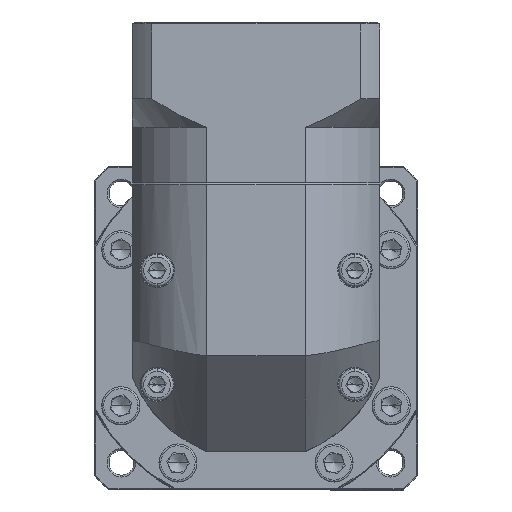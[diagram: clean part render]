
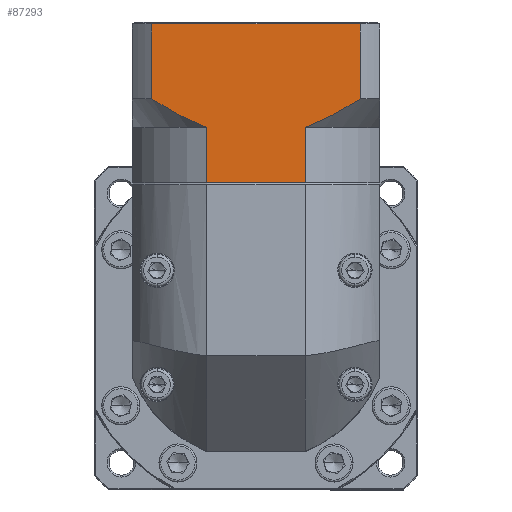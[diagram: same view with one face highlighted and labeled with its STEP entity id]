
A CAD part, top view. The second image highlights one B-rep face of the part: STEP entity #87293.
In plain terms, the highlighted planar face has unit normal (0, 0, 1).
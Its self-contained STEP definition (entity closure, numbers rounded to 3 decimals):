
#2312 = CARTESIAN_POINT ( 'NONE',  ( -29.307, 85.688, 22.63 ) ) ;
#4010 = CARTESIAN_POINT ( 'NONE',  ( -14.911, 127.388, 22.63 ) ) ;
#4377 = VERTEX_POINT ( 'NONE', #4010 ) ;
#5643 = ORIENTED_EDGE ( 'NONE', *, *, #58318, .T. ) ;
#5778 = VERTEX_POINT ( 'NONE', #11483 ) ;
#7276 = DIRECTION ( 'NONE',  ( 0., -1., 0. ) ) ;
#7319 = CARTESIAN_POINT ( 'NONE',  ( -55.287, 100.188, 22.63 ) ) ;
#8359 = CARTESIAN_POINT ( 'NONE',  ( -67.394, 106.239, 22.63 ) ) ;
#9135 = CARTESIAN_POINT ( 'NONE',  ( -26.14, 101.478, 22.63 ) ) ;
#11483 = CARTESIAN_POINT ( 'NONE',  ( -55.287, 85.688, 22.63 ) ) ;
#17642 = DIRECTION ( 'NONE',  ( 0., -1., 0. ) ) ;
#18111 = CARTESIAN_POINT ( 'NONE',  ( -24.286, 102.329, 22.63 ) ) ;
#20543 = ORIENTED_EDGE ( 'NONE', *, *, #104125, .F. ) ;
#22959 = DIRECTION ( 'NONE',  ( 0., 0., -1. ) ) ;
#28536 = EDGE_CURVE ( 'NONE', #5778, #51073, #29404, .T. ) ;
#29001 = CARTESIAN_POINT ( 'NONE',  ( -17.179, 106.226, 22.63 ) ) ;
#29272 = VERTEX_POINT ( 'NONE', #79262 ) ;
#29404 = LINE ( 'NONE', #116507, #31135 ) ;
#31135 = VECTOR ( 'NONE', #62267, 1000. ) ;
#32123 = CARTESIAN_POINT ( 'NONE',  ( -69.683, 100.188, 22.63 ) ) ;
#36195 = VECTOR ( 'NONE', #17642, 1000. ) ;
#37569 = B_SPLINE_CURVE_WITH_KNOTS ( 'NONE', 3,
 ( #134647, #81805, #49193, #114337, #9135, #18111, #61475, #50577, #29001, #83678 ),
 .UNSPECIFIED., .F., .F.,
 ( 4, 2, 2, 2, 4 ),
 ( 0.101, 0.103, 0.105, 0.109, 0.117 ),
 .UNSPECIFIED. ) ;
#40475 = DIRECTION ( 'NONE',  ( -1., 0., 0. ) ) ;
#40836 = CARTESIAN_POINT ( 'NONE',  ( -55.287, 100.188, 22.63 ) ) ;
#40930 = CARTESIAN_POINT ( 'NONE',  ( -74.797, 127.388, 22.63 ) ) ;
#41571 = CARTESIAN_POINT ( 'NONE',  ( -74.797, 85.688, 22.63 ) ) ;
#43623 = VECTOR ( 'NONE', #84568, 1000. ) ;
#45057 = CARTESIAN_POINT ( 'NONE',  ( -29.307, 100.188, 22.63 ) ) ;
#49193 = CARTESIAN_POINT ( 'NONE',  ( -28.026, 100.679, 22.63 ) ) ;
#49645 = CARTESIAN_POINT ( 'NONE',  ( -14.911, 100.188, 22.63 ) ) ;
#49821 = VECTOR ( 'NONE', #7276, 1000. ) ;
#50577 = CARTESIAN_POINT ( 'NONE',  ( -19.493, 104.839, 22.63 ) ) ;
#50736 = CARTESIAN_POINT ( 'NONE',  ( -68.545, 106.955, 22.63 ) ) ;
#51073 = VERTEX_POINT ( 'NONE', #7319 ) ;
#51756 = B_SPLINE_CURVE_WITH_KNOTS ( 'NONE', 3,
 ( #106420, #50736, #8359, #126242, #128117, #83374, #137150, #40836 ),
 .UNSPECIFIED., .F., .F.,
 ( 4, 2, 2, 4 ),
 ( 0.058, 0.062, 0.066, 0.074 ),
 .UNSPECIFIED. ) ;
#58318 = EDGE_CURVE ( 'NONE', #29272, #51073, #51756, .T. ) ;
#60000 = LINE ( 'NONE', #49645, #49821 ) ;
#61475 = CARTESIAN_POINT ( 'NONE',  ( -23.074, 102.934, 22.63 ) ) ;
#62135 = EDGE_LOOP ( 'NONE', ( #78539, #83012, #20543, #5643, #132978, #99141, #114455, #125399 ) ) ;
#62267 = DIRECTION ( 'NONE',  ( 0., 1., 0. ) ) ;
#69450 = EDGE_CURVE ( 'NONE', #136872, #89596, #37569, .T. ) ;
#72358 = VERTEX_POINT ( 'NONE', #139260 ) ;
#78539 = ORIENTED_EDGE ( 'NONE', *, *, #98826, .F. ) ;
#79262 = CARTESIAN_POINT ( 'NONE',  ( -69.683, 107.688, 22.63 ) ) ;
#81805 = CARTESIAN_POINT ( 'NONE',  ( -28.665, 100.426, 22.63 ) ) ;
#82278 = CARTESIAN_POINT ( 'NONE',  ( -29.307, 100.188, 22.63 ) ) ;
#83012 = ORIENTED_EDGE ( 'NONE', *, *, #91817, .T. ) ;
#83374 = CARTESIAN_POINT ( 'NONE',  ( -60.277, 102.275, 22.63 ) ) ;
#83608 = EDGE_CURVE ( 'NONE', #5778, #119113, #129734, .T. ) ;
#83678 = CARTESIAN_POINT ( 'NONE',  ( -14.911, 107.688, 22.63 ) ) ;
#84568 = DIRECTION ( 'NONE',  ( 1., 0., 0. ) ) ;
#85191 = LINE ( 'NONE', #82278, #36195 ) ;
#87293 = ADVANCED_FACE ( 'NONE', ( #125596 ), #107824, .F. ) ;
#89596 = VERTEX_POINT ( 'NONE', #124876 ) ;
#91817 = EDGE_CURVE ( 'NONE', #4377, #72358, #132434, .T. ) ;
#98826 = EDGE_CURVE ( 'NONE', #4377, #89596, #60000, .T. ) ;
#99141 = ORIENTED_EDGE ( 'NONE', *, *, #83608, .T. ) ;
#104125 = EDGE_CURVE ( 'NONE', #29272, #72358, #129636, .T. ) ;
#106420 = CARTESIAN_POINT ( 'NONE',  ( -69.683, 107.688, 22.63 ) ) ;
#107350 = DIRECTION ( 'NONE',  ( 0., 1., 0. ) ) ;
#107824 = PLANE ( 'NONE',  #123927 ) ;
#113082 = EDGE_CURVE ( 'NONE', #136872, #119113, #85191, .T. ) ;
#114337 = CARTESIAN_POINT ( 'NONE',  ( -26.764, 101.205, 22.63 ) ) ;
#114455 = ORIENTED_EDGE ( 'NONE', *, *, #113082, .F. ) ;
#116507 = CARTESIAN_POINT ( 'NONE',  ( -55.287, 100.188, 22.63 ) ) ;
#119113 = VERTEX_POINT ( 'NONE', #2312 ) ;
#123927 = AXIS2_PLACEMENT_3D ( 'NONE', #139886, #22959, #107350 ) ;
#123998 = VECTOR ( 'NONE', #40475, 1000. ) ;
#124876 = CARTESIAN_POINT ( 'NONE',  ( -14.911, 107.688, 22.63 ) ) ;
#125399 = ORIENTED_EDGE ( 'NONE', *, *, #69450, .T. ) ;
#125596 = FACE_OUTER_BOUND ( 'NONE', #62135, .T. ) ;
#126242 = CARTESIAN_POINT ( 'NONE',  ( -65.059, 104.855, 22.63 ) ) ;
#126248 = VECTOR ( 'NONE', #130212, 1000. ) ;
#128117 = CARTESIAN_POINT ( 'NONE',  ( -63.873, 104.185, 22.63 ) ) ;
#129636 = LINE ( 'NONE', #32123, #126248 ) ;
#129734 = LINE ( 'NONE', #41571, #43623 ) ;
#130212 = DIRECTION ( 'NONE',  ( 0., 1., 0. ) ) ;
#132434 = LINE ( 'NONE', #40930, #123998 ) ;
#132978 = ORIENTED_EDGE ( 'NONE', *, *, #28536, .F. ) ;
#134647 = CARTESIAN_POINT ( 'NONE',  ( -29.307, 100.188, 22.63 ) ) ;
#136872 = VERTEX_POINT ( 'NONE', #45057 ) ;
#137150 = CARTESIAN_POINT ( 'NONE',  ( -57.825, 101.13, 22.63 ) ) ;
#139260 = CARTESIAN_POINT ( 'NONE',  ( -69.683, 127.388, 22.63 ) ) ;
#139886 = CARTESIAN_POINT ( 'NONE',  ( -74.797, 127.888, 22.63 ) ) ;
